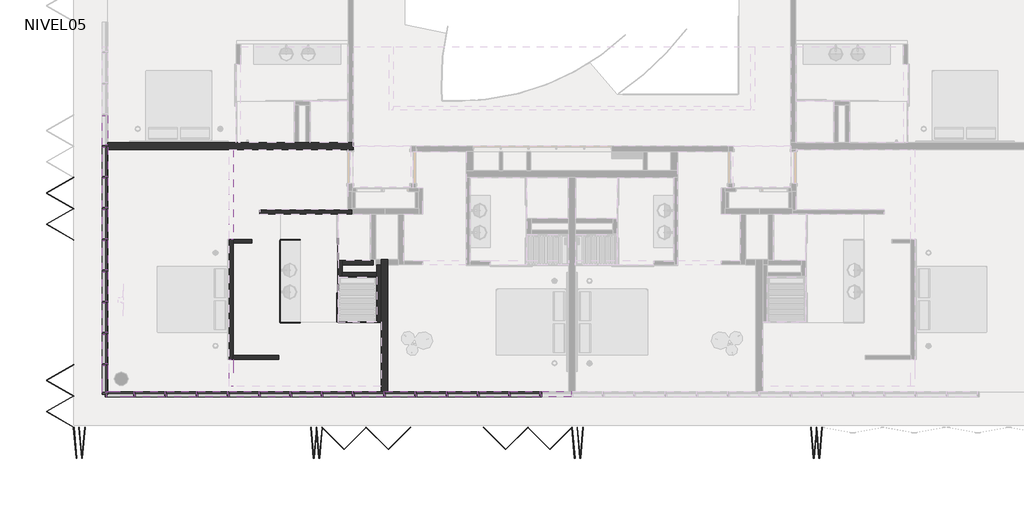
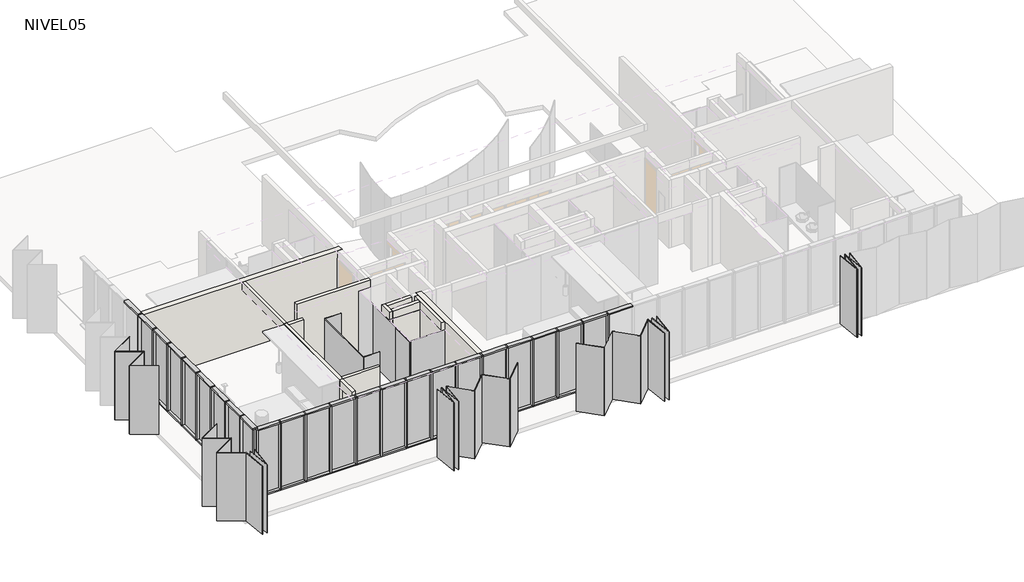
# One storey, part 1 of 8: 70 members, 32 plates, 15 walls.
"""IFC4 building model written with IfcOpenShell, lengths in millimetres."""

from ifc_helpers import new_model, si_unit, frame, origin, place, context, project, spatial, polyline, outline, extrude, faceted_brep, transform, mapped, element, save
from components import rectangular_mullion_50_x_150mm_324a6438, rectangular_mullion_50_x_150mm_d09437e2, rectangular_mullion_50_x_150mm_5dc04e1f, rectangular_mullion_50_x_150mm_33c2bde1, rectangular_mullion_50_x_150mm_da4cfd0d, folding_hd_folding_hd_45_d1567fec, folding_hd_folding_hd_60_f14e086e, folding_hd_folding_hd_85_4018a160, folding_hd_folding_hd_85_a0ccf00b, panel_corredera_cr_panel_corredera_0e7ff004, system_panel_cr_shower_eca2249b, system_panel_cr_shower_cd40b9b4, system_panel_cr_shower_8ff19449, system_panel_cr_shower_4114597a, system_panel_cr_shower_91ed7f58, system_panel_glazed_8b1c2311, system_panel_glazed_b40d16d2, system_panel_glazed_24c908d7, system_panel_glazed_6ccc6dc1

model = new_model("IFC4")

# Units and contexts
model_context = context("Model", 3, world=origin())
ifc_project = project(units=[si_unit("LENGTHUNIT", "METRE", prefix="MILLI")], contexts=[model_context])

# Site, building, storey
site = spatial("IfcSite", under=ifc_project)
building = spatial("IfcBuilding", under=site)
storey = spatial("IfcBuildingStorey", under=building, Name="NIVEL05", Elevation=10660.0)

# Members
placement = place(None, origin())
rectangular_mullion_50_x_150mm_shape = rectangular_mullion_50_x_150mm_324a6438(model_context)
element("IfcMember", 1, ObjectType="Rectangular Mullion : 50 x 150mm", at=placement, inside=storey, context=model_context, shape_type="MappedRepresentation", body=[
    mapped(rectangular_mullion_50_x_150mm_shape, transform((-20633.5934748, -241.0860763, 13210.0), x_axis=(0.0, 0.0, 1.0), y_axis=(-1.0, 0.0, 0.0), z_axis=(0.0, -1.0, 0.0))),
])
element("IfcMember", 2, ObjectType="Rectangular Mullion : 50 x 150mm", at=placement, inside=storey, context=model_context, shape_type="MappedRepresentation", body=[
    mapped(rectangular_mullion_50_x_150mm_shape, transform((-20633.5934748, -1141.0860763, 13210.0), x_axis=(0.0, 0.0, 1.0), y_axis=(-1.0, 0.0, 0.0), z_axis=(0.0, -1.0, 0.0))),
])
element("IfcMember", 3, ObjectType="Rectangular Mullion : 50 x 150mm", at=placement, inside=storey, context=model_context, shape_type="MappedRepresentation", body=[
    mapped(rectangular_mullion_50_x_150mm_shape, transform((-20633.5934748, -2041.0860763, 13210.0), x_axis=(0.0, 0.0, 1.0), y_axis=(-1.0, 0.0, 0.0), z_axis=(0.0, -1.0, 0.0))),
])
element("IfcMember", 4, ObjectType="Rectangular Mullion : 50 x 150mm", at=placement, inside=storey, context=model_context, shape_type="MappedRepresentation", body=[
    mapped(rectangular_mullion_50_x_150mm_shape, transform((-20633.5934748, -2941.0860763, 13210.0), x_axis=(0.0, 0.0, 1.0), y_axis=(-1.0, 0.0, 0.0), z_axis=(0.0, -1.0, 0.0))),
])
element("IfcMember", 5, ObjectType="Rectangular Mullion : 50 x 150mm", at=placement, inside=storey, context=model_context, shape_type="MappedRepresentation", body=[
    mapped(rectangular_mullion_50_x_150mm_shape, transform((-20633.5934748, -3841.0860763, 13210.0), x_axis=(0.0, 0.0, 1.0), y_axis=(-1.0, 0.0, 0.0), z_axis=(0.0, -1.0, 0.0))),
])
element("IfcMember", 6, ObjectType="Rectangular Mullion : 50 x 150mm", at=placement, inside=storey, context=model_context, shape_type="MappedRepresentation", body=[
    mapped(rectangular_mullion_50_x_150mm_shape, transform((-20633.5934748, -4741.0860763, 13210.0), x_axis=(0.0, 0.0, 1.0), y_axis=(-1.0, 0.0, 0.0), z_axis=(0.0, -1.0, 0.0))),
])
element("IfcMember", 7, ObjectType="Rectangular Mullion : 50 x 150mm", at=placement, inside=storey, context=model_context, shape_type="MappedRepresentation", body=[
    mapped(rectangular_mullion_50_x_150mm_shape, transform((-20633.5934748, -5641.0860763, 13210.0), x_axis=(0.0, 0.0, 1.0), y_axis=(-1.0, 0.0, 0.0), z_axis=(0.0, -1.0, 0.0))),
])
element("IfcMember", 8, ObjectType="Rectangular Mullion : 50 x 150mm", at=placement, inside=storey, context=model_context, shape_type="MappedRepresentation", body=[
    mapped(rectangular_mullion_50_x_150mm_shape, transform((-20633.5934748, -6541.0860763, 13210.0), x_axis=(0.0, 0.0, 1.0), y_axis=(-1.0, 0.0, 0.0), z_axis=(0.0, -1.0, 0.0))),
])
element("IfcMember", 9, ObjectType="Rectangular Mullion : 50 x 150mm", at=placement, inside=storey, context=model_context, shape_type="MappedRepresentation", body=[
    mapped(rectangular_mullion_50_x_150mm_shape, transform((-20633.5934748, -291.0860763, 10640.0), x_axis=(0.0, 0.0, -1.0), y_axis=(-1.0, 0.0, 0.0), z_axis=(0.0, 1.0, 0.0))),
])
element("IfcMember", 10, ObjectType="Rectangular Mullion : 50 x 150mm", at=placement, inside=storey, context=model_context, shape_type="MappedRepresentation", body=[
    mapped(rectangular_mullion_50_x_150mm_shape, transform((-20633.5934748, -1191.0860763, 10640.0), x_axis=(0.0, 0.0, -1.0), y_axis=(-1.0, 0.0, 0.0), z_axis=(0.0, 1.0, 0.0))),
])
element("IfcMember", 11, ObjectType="Rectangular Mullion : 50 x 150mm", at=placement, inside=storey, context=model_context, shape_type="MappedRepresentation", body=[
    mapped(rectangular_mullion_50_x_150mm_shape, transform((-20633.5934748, -2091.0860763, 10640.0), x_axis=(0.0, 0.0, -1.0), y_axis=(-1.0, 0.0, 0.0), z_axis=(0.0, 1.0, 0.0))),
])
element("IfcMember", 12, ObjectType="Rectangular Mullion : 50 x 150mm", at=placement, inside=storey, context=model_context, shape_type="MappedRepresentation", body=[
    mapped(rectangular_mullion_50_x_150mm_shape, transform((-20633.5934748, -2991.0860763, 10640.0), x_axis=(0.0, 0.0, -1.0), y_axis=(-1.0, 0.0, 0.0), z_axis=(0.0, 1.0, 0.0))),
])
element("IfcMember", 13, ObjectType="Rectangular Mullion : 50 x 150mm", at=placement, inside=storey, context=model_context, shape_type="MappedRepresentation", body=[
    mapped(rectangular_mullion_50_x_150mm_shape, transform((-20633.5934748, -3891.0860763, 10640.0), x_axis=(0.0, 0.0, -1.0), y_axis=(-1.0, 0.0, 0.0), z_axis=(0.0, 1.0, 0.0))),
])
element("IfcMember", 14, ObjectType="Rectangular Mullion : 50 x 150mm", at=placement, inside=storey, context=model_context, shape_type="MappedRepresentation", body=[
    mapped(rectangular_mullion_50_x_150mm_shape, transform((-20633.5934748, -4791.0860763, 10640.0), x_axis=(0.0, 0.0, -1.0), y_axis=(-1.0, 0.0, 0.0), z_axis=(0.0, 1.0, 0.0))),
])
element("IfcMember", 15, ObjectType="Rectangular Mullion : 50 x 150mm", at=placement, inside=storey, context=model_context, shape_type="MappedRepresentation", body=[
    mapped(rectangular_mullion_50_x_150mm_shape, transform((-20633.5934748, -5691.0860763, 10640.0), x_axis=(0.0, 0.0, -1.0), y_axis=(-1.0, 0.0, 0.0), z_axis=(0.0, 1.0, 0.0))),
])
element("IfcMember", 16, ObjectType="Rectangular Mullion : 50 x 150mm", at=placement, inside=storey, context=model_context, shape_type="MappedRepresentation", body=[
    mapped(rectangular_mullion_50_x_150mm_shape, transform((-8058.5934748, -7416.0860759, 13210.0), x_axis=(0.0, 0.0, 1.0), y_axis=(0.0, 1.0, 0.0), z_axis=(-1.0, 0.0, 0.0))),
])
element("IfcMember", 17, ObjectType="Rectangular Mullion : 50 x 150mm", at=placement, inside=storey, context=model_context, shape_type="MappedRepresentation", body=[
    mapped(rectangular_mullion_50_x_150mm_shape, transform((-8958.5934748, -7416.0860759, 13210.0), x_axis=(0.0, 0.0, 1.0), y_axis=(0.0, 1.0, 0.0), z_axis=(-1.0, 0.0, 0.0))),
])
element("IfcMember", 18, ObjectType="Rectangular Mullion : 50 x 150mm", at=placement, inside=storey, context=model_context, shape_type="MappedRepresentation", body=[
    mapped(rectangular_mullion_50_x_150mm_shape, transform((-9858.5934748, -7416.0860759, 13210.0), x_axis=(0.0, 0.0, 1.0), y_axis=(0.0, 1.0, 0.0), z_axis=(-1.0, 0.0, 0.0))),
])
element("IfcMember", 19, ObjectType="Rectangular Mullion : 50 x 150mm", at=placement, inside=storey, context=model_context, shape_type="MappedRepresentation", body=[
    mapped(rectangular_mullion_50_x_150mm_shape, transform((-10758.5934748, -7416.0860759, 13210.0), x_axis=(0.0, 0.0, 1.0), y_axis=(0.0, 1.0, 0.0), z_axis=(-1.0, 0.0, 0.0))),
])
element("IfcMember", 20, ObjectType="Rectangular Mullion : 50 x 150mm", at=placement, inside=storey, context=model_context, shape_type="MappedRepresentation", body=[
    mapped(rectangular_mullion_50_x_150mm_shape, transform((-11658.5934748, -7416.0860759, 13210.0), x_axis=(0.0, 0.0, 1.0), y_axis=(0.0, 1.0, 0.0), z_axis=(-1.0, 0.0, 0.0))),
])
element("IfcMember", 21, ObjectType="Rectangular Mullion : 50 x 150mm", at=placement, inside=storey, context=model_context, shape_type="MappedRepresentation", body=[
    mapped(rectangular_mullion_50_x_150mm_shape, transform((-12558.5934748, -7416.0860759, 13210.0), x_axis=(0.0, 0.0, 1.0), y_axis=(0.0, 1.0, 0.0), z_axis=(-1.0, 0.0, 0.0))),
])
element("IfcMember", 22, ObjectType="Rectangular Mullion : 50 x 150mm", at=placement, inside=storey, context=model_context, shape_type="MappedRepresentation", body=[
    mapped(rectangular_mullion_50_x_150mm_shape, transform((-13458.5934748, -7416.0860759, 13210.0), x_axis=(0.0, 0.0, 1.0), y_axis=(0.0, 1.0, 0.0), z_axis=(-1.0, 0.0, 0.0))),
])
element("IfcMember", 23, ObjectType="Rectangular Mullion : 50 x 150mm", at=placement, inside=storey, context=model_context, shape_type="MappedRepresentation", body=[
    mapped(rectangular_mullion_50_x_150mm_shape, transform((-14358.5934748, -7416.0860759, 13210.0), x_axis=(0.0, 0.0, 1.0), y_axis=(0.0, 1.0, 0.0), z_axis=(-1.0, 0.0, 0.0))),
])
element("IfcMember", 24, ObjectType="Rectangular Mullion : 50 x 150mm", at=placement, inside=storey, context=model_context, shape_type="MappedRepresentation", body=[
    mapped(rectangular_mullion_50_x_150mm_shape, transform((-15258.5934748, -7416.0860759, 13210.0), x_axis=(0.0, 0.0, 1.0), y_axis=(0.0, 1.0, 0.0), z_axis=(-1.0, 0.0, 0.0))),
])
element("IfcMember", 25, ObjectType="Rectangular Mullion : 50 x 150mm", at=placement, inside=storey, context=model_context, shape_type="MappedRepresentation", body=[
    mapped(rectangular_mullion_50_x_150mm_shape, transform((-16158.5934748, -7416.0860759, 13210.0), x_axis=(0.0, 0.0, 1.0), y_axis=(0.0, 1.0, 0.0), z_axis=(-1.0, 0.0, 0.0))),
])
element("IfcMember", 26, ObjectType="Rectangular Mullion : 50 x 150mm", at=placement, inside=storey, context=model_context, shape_type="MappedRepresentation", body=[
    mapped(rectangular_mullion_50_x_150mm_shape, transform((-17058.5934748, -7416.0860759, 13210.0), x_axis=(0.0, 0.0, 1.0), y_axis=(0.0, 1.0, 0.0), z_axis=(-1.0, 0.0, 0.0))),
])
element("IfcMember", 27, ObjectType="Rectangular Mullion : 50 x 150mm", at=placement, inside=storey, context=model_context, shape_type="MappedRepresentation", body=[
    mapped(rectangular_mullion_50_x_150mm_shape, transform((-17958.5934748, -7416.0860759, 13210.0), x_axis=(0.0, 0.0, 1.0), y_axis=(0.0, 1.0, 0.0), z_axis=(-1.0, 0.0, 0.0))),
])
element("IfcMember", 28, ObjectType="Rectangular Mullion : 50 x 150mm", at=placement, inside=storey, context=model_context, shape_type="MappedRepresentation", body=[
    mapped(rectangular_mullion_50_x_150mm_shape, transform((-18858.5934748, -7416.0860759, 13210.0), x_axis=(0.0, 0.0, 1.0), y_axis=(0.0, 1.0, 0.0), z_axis=(-1.0, 0.0, 0.0))),
])
element("IfcMember", 29, ObjectType="Rectangular Mullion : 50 x 150mm", at=placement, inside=storey, context=model_context, shape_type="MappedRepresentation", body=[
    mapped(rectangular_mullion_50_x_150mm_shape, transform((-19758.5934748, -7416.0860759, 13210.0), x_axis=(0.0, 0.0, 1.0), y_axis=(0.0, 1.0, 0.0), z_axis=(-1.0, 0.0, 0.0))),
])
element("IfcMember", 30, ObjectType="Rectangular Mullion : 50 x 150mm", at=placement, inside=storey, context=model_context, shape_type="MappedRepresentation", body=[
    mapped(rectangular_mullion_50_x_150mm_shape, transform((-8108.5934748, -7416.0860759, 10640.0), x_axis=(0.0, 0.0, -1.0), y_axis=(0.0, 1.0, 0.0), z_axis=(1.0, 0.0, 0.0))),
])
element("IfcMember", 31, ObjectType="Rectangular Mullion : 50 x 150mm", at=placement, inside=storey, context=model_context, shape_type="MappedRepresentation", body=[
    mapped(rectangular_mullion_50_x_150mm_shape, transform((-9008.5934748, -7416.0860759, 10640.0), x_axis=(0.0, 0.0, -1.0), y_axis=(0.0, 1.0, 0.0), z_axis=(1.0, 0.0, 0.0))),
])
element("IfcMember", 32, ObjectType="Rectangular Mullion : 50 x 150mm", at=placement, inside=storey, context=model_context, shape_type="MappedRepresentation", body=[
    mapped(rectangular_mullion_50_x_150mm_shape, transform((-9908.5934748, -7416.0860759, 10640.0), x_axis=(0.0, 0.0, -1.0), y_axis=(0.0, 1.0, 0.0), z_axis=(1.0, 0.0, 0.0))),
])
element("IfcMember", 33, ObjectType="Rectangular Mullion : 50 x 150mm", at=placement, inside=storey, context=model_context, shape_type="MappedRepresentation", body=[
    mapped(rectangular_mullion_50_x_150mm_shape, transform((-10808.5934748, -7416.0860759, 10640.0), x_axis=(0.0, 0.0, -1.0), y_axis=(0.0, 1.0, 0.0), z_axis=(1.0, 0.0, 0.0))),
])
element("IfcMember", 34, ObjectType="Rectangular Mullion : 50 x 150mm", at=placement, inside=storey, context=model_context, shape_type="MappedRepresentation", body=[
    mapped(rectangular_mullion_50_x_150mm_shape, transform((-11708.5934748, -7416.0860759, 10640.0), x_axis=(0.0, 0.0, -1.0), y_axis=(0.0, 1.0, 0.0), z_axis=(1.0, 0.0, 0.0))),
])
element("IfcMember", 35, ObjectType="Rectangular Mullion : 50 x 150mm", at=placement, inside=storey, context=model_context, shape_type="MappedRepresentation", body=[
    mapped(rectangular_mullion_50_x_150mm_shape, transform((-12608.5934748, -7416.0860759, 10640.0), x_axis=(0.0, 0.0, -1.0), y_axis=(0.0, 1.0, 0.0), z_axis=(1.0, 0.0, 0.0))),
])
element("IfcMember", 36, ObjectType="Rectangular Mullion : 50 x 150mm", at=placement, inside=storey, context=model_context, shape_type="MappedRepresentation", body=[
    mapped(rectangular_mullion_50_x_150mm_shape, transform((-13508.5934748, -7416.0860759, 10640.0), x_axis=(0.0, 0.0, -1.0), y_axis=(0.0, 1.0, 0.0), z_axis=(1.0, 0.0, 0.0))),
])
element("IfcMember", 37, ObjectType="Rectangular Mullion : 50 x 150mm", at=placement, inside=storey, context=model_context, shape_type="MappedRepresentation", body=[
    mapped(rectangular_mullion_50_x_150mm_shape, transform((-14408.5934748, -7416.0860759, 10640.0), x_axis=(0.0, 0.0, -1.0), y_axis=(0.0, 1.0, 0.0), z_axis=(1.0, 0.0, 0.0))),
])
element("IfcMember", 38, ObjectType="Rectangular Mullion : 50 x 150mm", at=placement, inside=storey, context=model_context, shape_type="MappedRepresentation", body=[
    mapped(rectangular_mullion_50_x_150mm_shape, transform((-15308.5934748, -7416.0860759, 10640.0), x_axis=(0.0, 0.0, -1.0), y_axis=(0.0, 1.0, 0.0), z_axis=(1.0, 0.0, 0.0))),
])
element("IfcMember", 39, ObjectType="Rectangular Mullion : 50 x 150mm", at=placement, inside=storey, context=model_context, shape_type="MappedRepresentation", body=[
    mapped(rectangular_mullion_50_x_150mm_shape, transform((-16208.5934748, -7416.0860759, 10640.0), x_axis=(0.0, 0.0, -1.0), y_axis=(0.0, 1.0, 0.0), z_axis=(1.0, 0.0, 0.0))),
])
element("IfcMember", 40, ObjectType="Rectangular Mullion : 50 x 150mm", at=placement, inside=storey, context=model_context, shape_type="MappedRepresentation", body=[
    mapped(rectangular_mullion_50_x_150mm_shape, transform((-17108.5934748, -7416.0860759, 10640.0), x_axis=(0.0, 0.0, -1.0), y_axis=(0.0, 1.0, 0.0), z_axis=(1.0, 0.0, 0.0))),
])
element("IfcMember", 41, ObjectType="Rectangular Mullion : 50 x 150mm", at=placement, inside=storey, context=model_context, shape_type="MappedRepresentation", body=[
    mapped(rectangular_mullion_50_x_150mm_shape, transform((-18008.5934748, -7416.0860759, 10640.0), x_axis=(0.0, 0.0, -1.0), y_axis=(0.0, 1.0, 0.0), z_axis=(1.0, 0.0, 0.0))),
])
element("IfcMember", 42, ObjectType="Rectangular Mullion : 50 x 150mm", at=placement, inside=storey, context=model_context, shape_type="MappedRepresentation", body=[
    mapped(rectangular_mullion_50_x_150mm_shape, transform((-18908.5934748, -7416.0860759, 10640.0), x_axis=(0.0, 0.0, -1.0), y_axis=(0.0, 1.0, 0.0), z_axis=(1.0, 0.0, 0.0))),
])
rectangular_mullion_50_x_150mm_2_shape = rectangular_mullion_50_x_150mm_d09437e2(model_context)
element("IfcMember", 43, ObjectType="Rectangular Mullion : 50 x 150mm", at=placement, inside=storey, context=model_context, shape_type="MappedRepresentation", body=[
    mapped(rectangular_mullion_50_x_150mm_2_shape, transform((-20633.5934748, -7366.0860759, 13210.0), x_axis=(0.0, 0.0, 1.0), y_axis=(-1.0, 0.0, 0.0), z_axis=(0.0, -1.0, 0.0))),
])
element("IfcMember", 44, ObjectType="Rectangular Mullion : 50 x 150mm", at=placement, inside=storey, context=model_context, shape_type="MappedRepresentation", body=[
    mapped(rectangular_mullion_50_x_150mm_2_shape, transform((-20633.5934748, -6591.0860763, 10640.0), x_axis=(0.0, 0.0, -1.0), y_axis=(-1.0, 0.0, 0.0), z_axis=(0.0, 1.0, 0.0))),
])
rectangular_mullion_50_x_150mm_3_shape = rectangular_mullion_50_x_150mm_5dc04e1f(model_context)
element("IfcMember", 45, ObjectType="Rectangular Mullion : 50 x 150mm", at=placement, inside=storey, context=model_context, shape_type="MappedRepresentation", body=[
    mapped(rectangular_mullion_50_x_150mm_3_shape, transform((-20583.5934748, -7416.0860759, 13210.0), x_axis=(0.0, 0.0, 1.0), y_axis=(0.0, 1.0, 0.0), z_axis=(-1.0, 0.0, 0.0))),
])
element("IfcMember", 46, ObjectType="Rectangular Mullion : 50 x 150mm", at=placement, inside=storey, context=model_context, shape_type="MappedRepresentation", body=[
    mapped(rectangular_mullion_50_x_150mm_3_shape, transform((-19808.5934748, -7416.0860759, 10640.0), x_axis=(0.0, 0.0, -1.0), y_axis=(0.0, 1.0, 0.0), z_axis=(1.0, 0.0, 0.0))),
])
rectangular_mullion_50_x_150mm_4_shape = rectangular_mullion_50_x_150mm_33c2bde1(model_context)
element("IfcMember", 47, ObjectType="Rectangular Mullion : 50 x 150mm", at=placement, inside=storey, context=model_context, shape_type="MappedRepresentation", body=[
    mapped(rectangular_mullion_50_x_150mm_4_shape, transform((-20633.5934748, -266.0860763, 10640.0), x_axis=(0.0, -1.0, 0.0), y_axis=(-1.0, 0.0, 0.0), z_axis=(0.0, 0.0, -1.0))),
])
element("IfcMember", 48, ObjectType="Rectangular Mullion : 50 x 150mm", at=placement, inside=storey, context=model_context, shape_type="MappedRepresentation", body=[
    mapped(rectangular_mullion_50_x_150mm_4_shape, transform((-20633.5934748, -1166.0860763, 10640.0), x_axis=(0.0, -1.0, 0.0), y_axis=(-1.0, 0.0, 0.0), z_axis=(0.0, 0.0, -1.0))),
])
element("IfcMember", 49, ObjectType="Rectangular Mullion : 50 x 150mm", at=placement, inside=storey, context=model_context, shape_type="MappedRepresentation", body=[
    mapped(rectangular_mullion_50_x_150mm_4_shape, transform((-20633.5934748, -2066.0860763, 10640.0), x_axis=(0.0, -1.0, 0.0), y_axis=(-1.0, 0.0, 0.0), z_axis=(0.0, 0.0, -1.0))),
])
element("IfcMember", 50, ObjectType="Rectangular Mullion : 50 x 150mm", at=placement, inside=storey, context=model_context, shape_type="MappedRepresentation", body=[
    mapped(rectangular_mullion_50_x_150mm_4_shape, transform((-20633.5934748, -2966.0860763, 10640.0), x_axis=(0.0, -1.0, 0.0), y_axis=(-1.0, 0.0, 0.0), z_axis=(0.0, 0.0, -1.0))),
])
element("IfcMember", 51, ObjectType="Rectangular Mullion : 50 x 150mm", at=placement, inside=storey, context=model_context, shape_type="MappedRepresentation", body=[
    mapped(rectangular_mullion_50_x_150mm_4_shape, transform((-20633.5934748, -3866.0860763, 10640.0), x_axis=(0.0, -1.0, 0.0), y_axis=(-1.0, 0.0, 0.0), z_axis=(0.0, 0.0, -1.0))),
])
element("IfcMember", 52, ObjectType="Rectangular Mullion : 50 x 150mm", at=placement, inside=storey, context=model_context, shape_type="MappedRepresentation", body=[
    mapped(rectangular_mullion_50_x_150mm_4_shape, transform((-20633.5934748, -4766.0860763, 10640.0), x_axis=(0.0, -1.0, 0.0), y_axis=(-1.0, 0.0, 0.0), z_axis=(0.0, 0.0, -1.0))),
])
element("IfcMember", 53, ObjectType="Rectangular Mullion : 50 x 150mm", at=placement, inside=storey, context=model_context, shape_type="MappedRepresentation", body=[
    mapped(rectangular_mullion_50_x_150mm_4_shape, transform((-20633.5934748, -5666.0860763, 10640.0), x_axis=(0.0, -1.0, 0.0), y_axis=(-1.0, 0.0, 0.0), z_axis=(0.0, 0.0, -1.0))),
])
element("IfcMember", 54, ObjectType="Rectangular Mullion : 50 x 150mm", at=placement, inside=storey, context=model_context, shape_type="MappedRepresentation", body=[
    mapped(rectangular_mullion_50_x_150mm_4_shape, transform((-20633.5934748, -6566.0860763, 10640.0), x_axis=(0.0, -1.0, 0.0), y_axis=(-1.0, 0.0, 0.0), z_axis=(0.0, 0.0, -1.0))),
])
rectangular_mullion_50_x_150mm_5_shape = rectangular_mullion_50_x_150mm_da4cfd0d(model_context)
element("IfcMember", 55, ObjectType="Rectangular Mullion : 50 x 150mm", at=placement, inside=storey, context=model_context, shape_type="MappedRepresentation", body=[
    mapped(rectangular_mullion_50_x_150mm_5_shape, transform((-20633.5934748, -7416.0860759, 10640.0), x_axis=(0.0, -1.0, 0.0), y_axis=(-1.0, 0.0, 0.0), z_axis=(0.0, 0.0, -1.0))),
])
element("IfcMember", 56, ObjectType="Rectangular Mullion : 50 x 150mm", at=placement, inside=storey, context=model_context, shape_type="MappedRepresentation", body=[
    mapped(rectangular_mullion_50_x_150mm_4_shape, transform((-8083.5934748, -7416.0860759, 10640.0), x_axis=(-1.0, 0.0, 0.0), y_axis=(0.0, 1.0, 0.0), z_axis=(0.0, 0.0, -1.0))),
])
element("IfcMember", 57, ObjectType="Rectangular Mullion : 50 x 150mm", at=placement, inside=storey, context=model_context, shape_type="MappedRepresentation", body=[
    mapped(rectangular_mullion_50_x_150mm_4_shape, transform((-8983.5934748, -7416.0860759, 10640.0), x_axis=(-1.0, 0.0, 0.0), y_axis=(0.0, 1.0, 0.0), z_axis=(0.0, 0.0, -1.0))),
])
element("IfcMember", 58, ObjectType="Rectangular Mullion : 50 x 150mm", at=placement, inside=storey, context=model_context, shape_type="MappedRepresentation", body=[
    mapped(rectangular_mullion_50_x_150mm_4_shape, transform((-9883.5934748, -7416.0860759, 10640.0), x_axis=(-1.0, 0.0, 0.0), y_axis=(0.0, 1.0, 0.0), z_axis=(0.0, 0.0, -1.0))),
])
element("IfcMember", 59, ObjectType="Rectangular Mullion : 50 x 150mm", at=placement, inside=storey, context=model_context, shape_type="MappedRepresentation", body=[
    mapped(rectangular_mullion_50_x_150mm_4_shape, transform((-10783.5934748, -7416.0860759, 10640.0), x_axis=(-1.0, 0.0, 0.0), y_axis=(0.0, 1.0, 0.0), z_axis=(0.0, 0.0, -1.0))),
])
element("IfcMember", 60, ObjectType="Rectangular Mullion : 50 x 150mm", at=placement, inside=storey, context=model_context, shape_type="MappedRepresentation", body=[
    mapped(rectangular_mullion_50_x_150mm_4_shape, transform((-11683.5934748, -7416.0860759, 10640.0), x_axis=(-1.0, 0.0, 0.0), y_axis=(0.0, 1.0, 0.0), z_axis=(0.0, 0.0, -1.0))),
])
element("IfcMember", 61, ObjectType="Rectangular Mullion : 50 x 150mm", at=placement, inside=storey, context=model_context, shape_type="MappedRepresentation", body=[
    mapped(rectangular_mullion_50_x_150mm_4_shape, transform((-12583.5934748, -7416.0860759, 10640.0), x_axis=(-1.0, 0.0, 0.0), y_axis=(0.0, 1.0, 0.0), z_axis=(0.0, 0.0, -1.0))),
])
element("IfcMember", 62, ObjectType="Rectangular Mullion : 50 x 150mm", at=placement, inside=storey, context=model_context, shape_type="MappedRepresentation", body=[
    mapped(rectangular_mullion_50_x_150mm_4_shape, transform((-13483.5934748, -7416.0860759, 10640.0), x_axis=(-1.0, 0.0, 0.0), y_axis=(0.0, 1.0, 0.0), z_axis=(0.0, 0.0, -1.0))),
])
element("IfcMember", 63, ObjectType="Rectangular Mullion : 50 x 150mm", at=placement, inside=storey, context=model_context, shape_type="MappedRepresentation", body=[
    mapped(rectangular_mullion_50_x_150mm_4_shape, transform((-14383.5934748, -7416.0860759, 10640.0), x_axis=(-1.0, 0.0, 0.0), y_axis=(0.0, 1.0, 0.0), z_axis=(0.0, 0.0, -1.0))),
])
element("IfcMember", 64, ObjectType="Rectangular Mullion : 50 x 150mm", at=placement, inside=storey, context=model_context, shape_type="MappedRepresentation", body=[
    mapped(rectangular_mullion_50_x_150mm_4_shape, transform((-15283.5934748, -7416.0860759, 10640.0), x_axis=(-1.0, 0.0, 0.0), y_axis=(0.0, 1.0, 0.0), z_axis=(0.0, 0.0, -1.0))),
])
element("IfcMember", 65, ObjectType="Rectangular Mullion : 50 x 150mm", at=placement, inside=storey, context=model_context, shape_type="MappedRepresentation", body=[
    mapped(rectangular_mullion_50_x_150mm_4_shape, transform((-16183.5934748, -7416.0860759, 10640.0), x_axis=(-1.0, 0.0, 0.0), y_axis=(0.0, 1.0, 0.0), z_axis=(0.0, 0.0, -1.0))),
])
element("IfcMember", 66, ObjectType="Rectangular Mullion : 50 x 150mm", at=placement, inside=storey, context=model_context, shape_type="MappedRepresentation", body=[
    mapped(rectangular_mullion_50_x_150mm_4_shape, transform((-17083.5934748, -7416.0860759, 10640.0), x_axis=(-1.0, 0.0, 0.0), y_axis=(0.0, 1.0, 0.0), z_axis=(0.0, 0.0, -1.0))),
])
element("IfcMember", 67, ObjectType="Rectangular Mullion : 50 x 150mm", at=placement, inside=storey, context=model_context, shape_type="MappedRepresentation", body=[
    mapped(rectangular_mullion_50_x_150mm_4_shape, transform((-17983.5934748, -7416.0860759, 10640.0), x_axis=(-1.0, 0.0, 0.0), y_axis=(0.0, 1.0, 0.0), z_axis=(0.0, 0.0, -1.0))),
])
element("IfcMember", 68, ObjectType="Rectangular Mullion : 50 x 150mm", at=placement, inside=storey, context=model_context, shape_type="MappedRepresentation", body=[
    mapped(rectangular_mullion_50_x_150mm_4_shape, transform((-18883.5934748, -7416.0860759, 10640.0), x_axis=(-1.0, 0.0, 0.0), y_axis=(0.0, 1.0, 0.0), z_axis=(0.0, 0.0, -1.0))),
])
element("IfcMember", 69, ObjectType="Rectangular Mullion : 50 x 150mm", at=placement, inside=storey, context=model_context, shape_type="MappedRepresentation", body=[
    mapped(rectangular_mullion_50_x_150mm_4_shape, transform((-19783.5934748, -7416.0860759, 10640.0), x_axis=(-1.0, 0.0, 0.0), y_axis=(0.0, 1.0, 0.0), z_axis=(0.0, 0.0, -1.0))),
])
element("IfcMember", 70, ObjectType="Rectangular Mullion : 50 x 150mm", at=placement, inside=storey, context=model_context, shape_type="MappedRepresentation", body=[
    mapped(rectangular_mullion_50_x_150mm_5_shape, transform((-20633.5934748, -7416.0860759, 10640.0), x_axis=(-1.0, 0.0, 0.0), y_axis=(0.0, 1.0, 0.0), z_axis=(0.0, 0.0, -1.0))),
])

# Plates
folding_hd_folding_hd_45_shape = folding_hd_folding_hd_45_d1567fec(model_context)
element("IfcPlate", 71, ObjectType="FOLDING HD : FOLDING HD 45", at=placement, inside=storey, context=model_context, shape_type="MappedRepresentation", body=[
    mapped(folding_hd_folding_hd_45_shape, transform((-10783.5934748, -8366.0860759, 10640.0), x_axis=(-1.0, 0.0, 0.0), y_axis=(0.0, -1.0, 0.0), z_axis=(0.0, 0.0, 1.0))),
])
folding_hd_folding_hd_60_shape = folding_hd_folding_hd_60_f14e086e(model_context)
element("IfcPlate", 72, ObjectType="FOLDING HD : FOLDING HD 60", at=placement, inside=storey, context=model_context, shape_type="MappedRepresentation", body=[
    mapped(folding_hd_folding_hd_60_shape, transform((-21533.5934748, -4766.0860759, 10640.0), x_axis=(0.0, -1.0, 0.0), y_axis=(1.0, 0.0, 0.0), z_axis=(0.0, 0.0, 1.0))),
])
folding_hd_folding_hd_85_shape = folding_hd_folding_hd_85_4018a160(model_context)
element("IfcPlate", 73, ObjectType="FOLDING HD : FOLDING HD 85", at=placement, inside=storey, context=model_context, shape_type="MappedRepresentation", body=[
    mapped(folding_hd_folding_hd_85_shape, transform((-17958.5934748, -8366.0860759, 10640.0), x_axis=(-1.0, 0.0, 0.0), y_axis=(0.0, -1.0, 0.0), z_axis=(0.0, 0.0, 1.0))),
])
folding_hd_folding_hd_85_2_shape = folding_hd_folding_hd_85_a0ccf00b(model_context)
element("IfcPlate", 74, ObjectType="FOLDING HD : FOLDING HD 85", at=placement, inside=storey, context=model_context, shape_type="MappedRepresentation", body=[
    mapped(folding_hd_folding_hd_85_2_shape, transform((-3583.5934748, -8366.0860759, 10640.0), x_axis=(-1.0, 0.0, 0.0), y_axis=(0.0, -1.0, 0.0), z_axis=(0.0, 0.0, 1.0))),
])
panel_corredera_cr_panel_corredera_shape = panel_corredera_cr_panel_corredera_0e7ff004(model_context)
element("IfcPlate", 75, ObjectType="PANEL CORREDERA : CR_PANEL CORREDERA", at=placement, inside=storey, context=model_context, shape_type="MappedRepresentation", body=[
    mapped(panel_corredera_cr_panel_corredera_shape, transform((-13913.6434748, -4991.5697221, 10660.0), x_axis=(0.0, 1.0, 0.0), y_axis=(-1.0, 0.0, 0.0), z_axis=(0.0, 0.0, 1.0))),
])
system_panel_cr_shower_shape = system_panel_cr_shower_eca2249b(model_context)
element("IfcPlate", 76, ObjectType="System Panel : CR-SHOWER", at=placement, inside=storey, context=model_context, shape_type="MappedRepresentation", body=[
    mapped(system_panel_cr_shower_shape, transform((-13298.6184748, -5336.1362189, 10660.0), x_axis=(-1.0, 0.0, 0.0), y_axis=(0.0, -1.0, 0.0), z_axis=(0.0, 0.0, 1.0))),
])
system_panel_cr_shower_2_shape = system_panel_cr_shower_cd40b9b4(model_context)
element("IfcPlate", 77, ObjectType="System Panel : CR-SHOWER", at=placement, inside=storey, context=model_context, shape_type="MappedRepresentation", body=[
    mapped(system_panel_cr_shower_2_shape, transform((-15593.5934748, -4164.8462541, 10660.0), x_axis=(0.0, 1.0, 0.0), y_axis=(-1.0, 0.0, 0.0), z_axis=(0.0, 0.0, 1.0))),
])
system_panel_cr_shower_3_shape = system_panel_cr_shower_8ff19449(model_context)
element("IfcPlate", 78, ObjectType="System Panel : CR-SHOWER", at=placement, inside=storey, context=model_context, shape_type="MappedRepresentation", body=[
    mapped(system_panel_cr_shower_3_shape, transform((-15303.5934748, -5348.5862189, 10660.0), x_axis=(-1.0, 0.0, 0.0), y_axis=(0.0, -1.0, 0.0), z_axis=(0.0, 0.0, 1.0))),
])
system_panel_cr_shower_4_shape = system_panel_cr_shower_4114597a(model_context)
element("IfcPlate", 79, ObjectType="System Panel : CR-SHOWER", at=placement, inside=storey, context=model_context, shape_type="MappedRepresentation", body=[
    mapped(system_panel_cr_shower_4_shape, transform((-15303.5934748, -2966.0860763, 10660.0), x_axis=(-1.0, 0.0, 0.0), y_axis=(0.0, -1.0, 0.0), z_axis=(0.0, 0.0, 1.0))),
])
system_panel_cr_shower_5_shape = system_panel_cr_shower_91ed7f58(model_context)
element("IfcPlate", 80, ObjectType="System Panel : CR-SHOWER", at=placement, inside=storey, context=model_context, shape_type="MappedRepresentation", body=[
    mapped(system_panel_cr_shower_5_shape, transform((-13913.6434748, -3776.2845441, 10660.0), x_axis=(0.0, 1.0, 0.0), y_axis=(-1.0, 0.0, 0.0), z_axis=(0.0, 0.0, 1.0))),
])
system_panel_glazed_shape = system_panel_glazed_8b1c2311(model_context)
element("IfcPlate", 81, ObjectType="System Panel : Glazed", at=placement, inside=storey, context=model_context, shape_type="MappedRepresentation", body=[
    mapped(system_panel_glazed_shape, transform((-20633.5934748, -716.0860763, 10690.0), x_axis=(0.0, -1.0, 0.0), y_axis=(1.0, 0.0, 0.0), z_axis=(0.0, 0.0, 1.0))),
])
element("IfcPlate", 82, ObjectType="System Panel : Glazed", at=placement, inside=storey, context=model_context, shape_type="MappedRepresentation", body=[
    mapped(system_panel_glazed_shape, transform((-20633.5934748, -1616.0860763, 10690.0), x_axis=(0.0, -1.0, 0.0), y_axis=(1.0, 0.0, 0.0), z_axis=(0.0, 0.0, 1.0))),
])
element("IfcPlate", 83, ObjectType="System Panel : Glazed", at=placement, inside=storey, context=model_context, shape_type="MappedRepresentation", body=[
    mapped(system_panel_glazed_shape, transform((-20633.5934748, -2516.0860763, 10690.0), x_axis=(0.0, -1.0, 0.0), y_axis=(1.0, 0.0, 0.0), z_axis=(0.0, 0.0, 1.0))),
])
element("IfcPlate", 84, ObjectType="System Panel : Glazed", at=placement, inside=storey, context=model_context, shape_type="MappedRepresentation", body=[
    mapped(system_panel_glazed_shape, transform((-20633.5934748, -3416.0860763, 10690.0), x_axis=(0.0, -1.0, 0.0), y_axis=(1.0, 0.0, 0.0), z_axis=(0.0, 0.0, 1.0))),
])
element("IfcPlate", 85, ObjectType="System Panel : Glazed", at=placement, inside=storey, context=model_context, shape_type="MappedRepresentation", body=[
    mapped(system_panel_glazed_shape, transform((-20633.5934748, -4316.0860763, 10690.0), x_axis=(0.0, -1.0, 0.0), y_axis=(1.0, 0.0, 0.0), z_axis=(0.0, 0.0, 1.0))),
])
element("IfcPlate", 86, ObjectType="System Panel : Glazed", at=placement, inside=storey, context=model_context, shape_type="MappedRepresentation", body=[
    mapped(system_panel_glazed_shape, transform((-20633.5934748, -5216.0860763, 10690.0), x_axis=(0.0, -1.0, 0.0), y_axis=(1.0, 0.0, 0.0), z_axis=(0.0, 0.0, 1.0))),
])
element("IfcPlate", 87, ObjectType="System Panel : Glazed", at=placement, inside=storey, context=model_context, shape_type="MappedRepresentation", body=[
    mapped(system_panel_glazed_shape, transform((-20633.5934748, -6116.0860763, 10690.0), x_axis=(0.0, -1.0, 0.0), y_axis=(1.0, 0.0, 0.0), z_axis=(0.0, 0.0, 1.0))),
])
system_panel_glazed_2_shape = system_panel_glazed_b40d16d2(model_context)
element("IfcPlate", 88, ObjectType="System Panel : Glazed", at=placement, inside=storey, context=model_context, shape_type="MappedRepresentation", body=[
    mapped(system_panel_glazed_2_shape, transform((-20633.5934748, -6978.5860761, 10690.0), x_axis=(0.0, -1.0, 0.0), y_axis=(1.0, 0.0, 0.0), z_axis=(0.0, 0.0, 1.0))),
])
system_panel_glazed_3_shape = system_panel_glazed_24c908d7(model_context)
element("IfcPlate", 89, ObjectType="System Panel : Glazed", at=placement, inside=storey, context=model_context, shape_type="MappedRepresentation", body=[
    mapped(system_panel_glazed_3_shape, transform((-20196.0934748, -7416.0860759, 10690.0), x_axis=(-1.0, 0.0, 0.0), y_axis=(0.0, -1.0, 0.0), z_axis=(0.0, 0.0, 1.0))),
])
system_panel_glazed_4_shape = system_panel_glazed_6ccc6dc1(model_context)
element("IfcPlate", 90, ObjectType="System Panel : Glazed", at=placement, inside=storey, context=model_context, shape_type="MappedRepresentation", body=[
    mapped(system_panel_glazed_4_shape, transform((-8533.5934748, -7416.0860759, 10690.0), x_axis=(-1.0, 0.0, 0.0), y_axis=(0.0, -1.0, 0.0), z_axis=(0.0, 0.0, 1.0))),
])
element("IfcPlate", 91, ObjectType="System Panel : Glazed", at=placement, inside=storey, context=model_context, shape_type="MappedRepresentation", body=[
    mapped(system_panel_glazed_4_shape, transform((-9433.5934748, -7416.0860759, 10690.0), x_axis=(-1.0, 0.0, 0.0), y_axis=(0.0, -1.0, 0.0), z_axis=(0.0, 0.0, 1.0))),
])
element("IfcPlate", 92, ObjectType="System Panel : Glazed", at=placement, inside=storey, context=model_context, shape_type="MappedRepresentation", body=[
    mapped(system_panel_glazed_4_shape, transform((-10333.5934748, -7416.0860759, 10690.0), x_axis=(-1.0, 0.0, 0.0), y_axis=(0.0, -1.0, 0.0), z_axis=(0.0, 0.0, 1.0))),
])
element("IfcPlate", 93, ObjectType="System Panel : Glazed", at=placement, inside=storey, context=model_context, shape_type="MappedRepresentation", body=[
    mapped(system_panel_glazed_4_shape, transform((-11233.5934748, -7416.0860759, 10690.0), x_axis=(-1.0, 0.0, 0.0), y_axis=(0.0, -1.0, 0.0), z_axis=(0.0, 0.0, 1.0))),
])
element("IfcPlate", 94, ObjectType="System Panel : Glazed", at=placement, inside=storey, context=model_context, shape_type="MappedRepresentation", body=[
    mapped(system_panel_glazed_4_shape, transform((-12133.5934748, -7416.0860759, 10690.0), x_axis=(-1.0, 0.0, 0.0), y_axis=(0.0, -1.0, 0.0), z_axis=(0.0, 0.0, 1.0))),
])
element("IfcPlate", 95, ObjectType="System Panel : Glazed", at=placement, inside=storey, context=model_context, shape_type="MappedRepresentation", body=[
    mapped(system_panel_glazed_4_shape, transform((-13033.5934748, -7416.0860759, 10690.0), x_axis=(-1.0, 0.0, 0.0), y_axis=(0.0, -1.0, 0.0), z_axis=(0.0, 0.0, 1.0))),
])
element("IfcPlate", 96, ObjectType="System Panel : Glazed", at=placement, inside=storey, context=model_context, shape_type="MappedRepresentation", body=[
    mapped(system_panel_glazed_4_shape, transform((-13933.5934748, -7416.0860759, 10690.0), x_axis=(-1.0, 0.0, 0.0), y_axis=(0.0, -1.0, 0.0), z_axis=(0.0, 0.0, 1.0))),
])
element("IfcPlate", 97, ObjectType="System Panel : Glazed", at=placement, inside=storey, context=model_context, shape_type="MappedRepresentation", body=[
    mapped(system_panel_glazed_4_shape, transform((-14833.5934748, -7416.0860759, 10690.0), x_axis=(-1.0, 0.0, 0.0), y_axis=(0.0, -1.0, 0.0), z_axis=(0.0, 0.0, 1.0))),
])
element("IfcPlate", 98, ObjectType="System Panel : Glazed", at=placement, inside=storey, context=model_context, shape_type="MappedRepresentation", body=[
    mapped(system_panel_glazed_4_shape, transform((-15733.5934748, -7416.0860759, 10690.0), x_axis=(-1.0, 0.0, 0.0), y_axis=(0.0, -1.0, 0.0), z_axis=(0.0, 0.0, 1.0))),
])
element("IfcPlate", 99, ObjectType="System Panel : Glazed", at=placement, inside=storey, context=model_context, shape_type="MappedRepresentation", body=[
    mapped(system_panel_glazed_4_shape, transform((-16633.5934748, -7416.0860759, 10690.0), x_axis=(-1.0, 0.0, 0.0), y_axis=(0.0, -1.0, 0.0), z_axis=(0.0, 0.0, 1.0))),
])
element("IfcPlate", 100, ObjectType="System Panel : Glazed", at=placement, inside=storey, context=model_context, shape_type="MappedRepresentation", body=[
    mapped(system_panel_glazed_4_shape, transform((-17533.5934748, -7416.0860759, 10690.0), x_axis=(-1.0, 0.0, 0.0), y_axis=(0.0, -1.0, 0.0), z_axis=(0.0, 0.0, 1.0))),
])
element("IfcPlate", 101, ObjectType="System Panel : Glazed", at=placement, inside=storey, context=model_context, shape_type="MappedRepresentation", body=[
    mapped(system_panel_glazed_4_shape, transform((-18433.5934748, -7416.0860759, 10690.0), x_axis=(-1.0, 0.0, 0.0), y_axis=(0.0, -1.0, 0.0), z_axis=(0.0, 0.0, 1.0))),
])
element("IfcPlate", 102, ObjectType="System Panel : Glazed", at=placement, inside=storey, context=model_context, shape_type="MappedRepresentation", body=[
    mapped(system_panel_glazed_4_shape, transform((-19333.5934748, -7416.0860759, 10690.0), x_axis=(-1.0, 0.0, 0.0), y_axis=(0.0, -1.0, 0.0), z_axis=(0.0, 0.0, 1.0))),
])

# Walls
element("IfcWall", 103, ObjectType="SCV.TI.A.110.090.143.47.1", at=placement, inside=storey, context=model_context, shape_type="Brep", body=[
    faceted_brep([(-13533.5934748, -2106.0860759, 10640.0), (-13643.5934748, -2106.0860759, 10640.0), (-16173.5934748, -2106.0860759, 10640.0), (-16173.5934748, -2106.0860759, 13210.0), (-13643.5934748, -2106.0860759, 13210.0), (-13533.5934748, -2106.0860759, 13210.0), (-13533.5934748, -2216.0860759, 10640.0), (-13533.5934748, -2216.0860759, 13210.0), (-16173.5934748, -2216.0860759, 13210.0), (-16173.5934748, -2216.0860759, 10640.0)], [[[0, 1, 2, 3, 4, 5]], [[6, 7, 8, 9]], [[2, 1, 0, 6, 9]], [[3, 2, 9, 8]], [[5, 4, 3, 8, 7]], [[0, 5, 7, 6]]]),
])
element("IfcWall", 104, ObjectType="SCV.TI.A.120.120.122.46.2", at=placement, inside=storey, context=model_context, shape_type="SweptSolid", body=[
    extrude(outline(polyline([(-13793.5934748, -3906.0862189), (-12803.5934748, -3906.0862189), (-12803.5934748, -4026.0862189), (-13793.5934748, -4026.0862189), (-13793.5934748, -3906.0862189)])), frame((0.0, 0.0, 10640.0), z_axis=(0.0, 0.0, 1.0), x_axis=(1.0, 0.0, 0.0)), (0.0, 0.0, 1.0), 2570.0),
])
element("IfcWall", 105, ObjectType="SCV.TI.A.120.120.122.46.2", at=placement, inside=storey, context=model_context, shape_type="Brep", body=[
    faceted_brep([(-13793.5934748, -4026.0862189, 10640.0), (-13793.5934748, -3906.0862189, 10640.0), (-13793.5934748, -3686.0862189, 10640.0), (-13793.5934748, -3566.0862189, 10640.0), (-13793.5934748, -3566.0862189, 13210.0), (-13793.5934748, -3686.0862189, 13210.0), (-13793.5934748, -3906.0862189, 13210.0), (-13793.5934748, -4026.0862189, 13210.0), (-13913.5934748, -4026.0862189, 10640.0), (-13913.5934748, -4026.0862189, 13210.0), (-13913.5934748, -3566.0862189, 13210.0), (-13913.5934748, -3566.0862189, 10640.0)], [[[0, 1, 2, 3, 4, 5, 6, 7]], [[8, 9, 10, 11]], [[3, 2, 1, 0, 8, 11]], [[7, 6, 5, 4, 10, 9]], [[4, 3, 11, 10]], [[0, 7, 9, 8]]]),
])
element("IfcWall", 106, ObjectType="SCV.TI.A.120.120.122.46.2", at=placement, inside=storey, context=model_context, shape_type="SweptSolid", body=[
    extrude(outline(polyline([(-12908.5934748, -3686.0862189), (-13793.5934748, -3686.0862189), (-13793.5934748, -3566.0862189), (-12908.5934748, -3566.0862189), (-12908.5934748, -3686.0862189)])), frame((0.0, 0.0, 10640.0), z_axis=(0.0, 0.0, 1.0), x_axis=(1.0, 0.0, 0.0)), (0.0, 0.0, 1.0), 2570.0),
])
element("IfcWall", 107, ObjectType="SCV.TI.A.110.090.143.47.1", at=placement, inside=storey, context=model_context, shape_type="SweptSolid", body=[
    extrude(outline(polyline([(-16943.5934748, -2951.0658633), (-16402.4831576, -2951.0658633), (-16402.4831576, -3061.0658633), (-16943.5934748, -3061.0658633), (-16943.5934748, -2951.0658633)])), frame((0.0, 0.0, 10640.0), z_axis=(0.0, 0.0, 1.0), x_axis=(1.0, 0.0, 0.0)), (0.0, 0.0, 1.0), 2570.0),
])
element("IfcWall", 108, ObjectType="SCV.TI.A.110.090.143.47.1", at=placement, inside=storey, context=model_context, shape_type="Brep", body=[
    faceted_brep([(-16943.5934748, -6411.0658633, 13210.0), (-16943.5934748, -6411.0658633, 12910.0), (-16943.5934748, -6411.0658633, 10640.0), (-16943.5934748, -6301.0658633, 10640.0), (-16943.5934748, -3061.0658633, 10640.0), (-16943.5934748, -2951.0658633, 10640.0), (-16943.5934748, -2951.0658633, 12910.0), (-16943.5934748, -2951.0658633, 13210.0), (-16943.5934748, -3061.0658633, 13210.0), (-16943.5934748, -6301.0658633, 13210.0), (-17053.5934748, -6411.0658633, 10640.0), (-17053.5934748, -6411.0658633, 12910.0), (-17053.5934748, -6411.0658633, 13210.0), (-17053.5934748, -2951.0658633, 13210.0), (-17053.5934748, -2951.0658633, 12910.0), (-17053.5934748, -2951.0658633, 10640.0)], [[[0, 1, 2, 3, 4, 5, 6, 7, 8, 9]], [[10, 11, 12, 13, 14, 15]], [[5, 4, 3, 2, 10, 15]], [[0, 9, 8, 7, 13, 12]], [[0, 12, 11, 10, 2, 1]], [[5, 15, 14, 13, 7, 6]]]),
])
element("IfcWall", 109, ObjectType="SCV.TI.A.110.090.143.47.1", at=placement, inside=storey, context=model_context, shape_type="SweptSolid", body=[
    extrude(outline(polyline([(-16943.5934748, -6301.0658633), (-15624.9331576, -6301.0658633), (-15624.9331576, -6411.0658633), (-16943.5934748, -6411.0658633), (-16943.5934748, -6301.0658633)])), frame((0.0, 0.0, 10640.0), z_axis=(0.0, 0.0, 1.0), x_axis=(1.0, 0.0, 0.0)), (0.0, 0.0, 1.0), 2570.0),
])
element("IfcWall", 110, ObjectType="REV-PORCELANATO_60*60", at=placement, inside=storey, context=model_context, shape_type="Brep", body=[
    faceted_brep([(-12803.5934748, -5336.1362189, 10660.0), (-12803.5934748, -4026.0862189, 10660.0), (-12803.5934748, -4026.0862189, 12920.0), (-12803.5934748, -5336.1362189, 12920.0), (-12813.5934748, -5336.1362189, 10660.0), (-12813.5934748, -5336.1362189, 12920.0), (-12813.5934748, -4036.0862189, 12920.0), (-12813.5934748, -4026.0862189, 12920.0), (-12813.5934748, -4026.0862189, 10660.0), (-12813.5934748, -4036.0862189, 10660.0)], [[[0, 1, 2, 3]], [[4, 5, 6, 7, 8, 9]], [[1, 0, 4, 9, 8]], [[3, 2, 7, 6, 5]], [[0, 3, 5, 4]], [[2, 1, 8, 7]]]),
])
element("IfcWall", 111, ObjectType="REV-PORCELANATO_60*60", at=placement, inside=storey, context=model_context, shape_type="SweptSolid", body=[
    extrude(outline(polyline([(-13913.6434748, -4026.0862189), (-12813.5934748, -4026.0862189), (-12813.5934748, -4036.0862189), (-13913.6434748, -4036.0862189), (-13913.6434748, -4026.0862189)])), frame((0.0, 0.0, 10660.0), z_axis=(0.0, 0.0, 1.0), x_axis=(1.0, 0.0, 0.0)), (0.0, 0.0, 1.0), 2260.0),
])
element("IfcWall", 112, ObjectType="REV-PORCELANATO_60*60", at=placement, inside=storey, context=model_context, shape_type="Brep", body=[
    faceted_brep([(-13913.6434748, -3566.0862189, 10660.0), (-12983.5934748, -3566.0862189, 10660.0), (-12983.5934748, -3566.0862189, 12920.0), (-13913.6434748, -3566.0862189, 12920.0), (-13913.6434748, -3556.0862189, 10660.0), (-13913.6434748, -3556.0862189, 12920.0), (-12993.5934748, -3556.0862189, 12920.0), (-12983.5934748, -3556.0862189, 12920.0), (-12983.5934748, -3556.0862189, 10660.0), (-12993.5934748, -3556.0862189, 10660.0)], [[[0, 1, 2, 3]], [[4, 5, 6, 7, 8, 9]], [[1, 0, 4, 9, 8]], [[3, 2, 7, 6, 5]], [[0, 3, 5, 4]], [[2, 1, 8, 7]]]),
])
element("IfcWall", 113, ObjectType="SCV.TI.A.110.090.143.47.1 2", at=placement, inside=storey, context=model_context, shape_type="SweptSolid", body=[
    extrude(outline(polyline([(-16943.5934748, -366.0860759), (-16943.5934748, -2951.0658633), (-17053.5934748, -2951.0658633), (-17053.5934748, -366.0860759), (-16943.5934748, -366.0860759)])), frame((0.0, 0.0, 12910.0), z_axis=(0.0, 0.0, 1.0), x_axis=(1.0, 0.0, 0.0)), (0.0, 0.0, 1.0), 300.0),
])
element("IfcWall", 114, ObjectType="SCV.TI.A.110.090.143.47.1 2", at=placement, inside=storey, context=model_context, shape_type="SweptSolid", body=[
    extrude(outline(polyline([(-16943.5934748, -6411.0658633), (-16943.5934748, -7185.2015033), (-17053.5934748, -7185.2015033), (-17053.5934748, -6411.0658633), (-16943.5934748, -6411.0658633)])), frame((0.0, 0.0, 12910.0), z_axis=(0.0, 0.0, 1.0), x_axis=(1.0, 0.0, 0.0)), (0.0, 0.0, 1.0), 300.0),
])
element("IfcWall", 115, ObjectType="SCV.TI.A.120.120.122.46.2", at=placement, inside=storey, context=model_context, shape_type="Brep", body=[
    faceted_brep([(-12803.5934748, -3686.0862189, 10640.0), (-12803.5934748, -3906.0862189, 10640.0), (-12803.5934748, -4026.0862189, 10640.0), (-12803.5934748, -5336.1362189, 10640.0), (-12803.5934748, -5336.1362189, 13210.0), (-12803.5934748, -4026.0862189, 13210.0), (-12803.5934748, -3906.0862189, 13210.0), (-12803.5934748, -3686.0862189, 13210.0), (-12683.5934748, -3686.0862189, 10640.0), (-12683.5934748, -3686.0862189, 13210.0), (-12683.5934748, -5336.1362189, 13210.0), (-12683.5934748, -5336.1362189, 10640.0)], [[[0, 1, 2, 3, 4, 5, 6, 7]], [[8, 9, 10, 11]], [[3, 2, 1, 0, 8, 11]], [[4, 3, 11, 10]], [[7, 6, 5, 4, 10, 9]], [[0, 7, 9, 8]]]),
])
element("IfcWall", 116, ObjectType="HA-200mm", at=placement, inside=storey, context=model_context, shape_type="Brep", body=[
    faceted_brep([(-12683.5934748, -3536.0862189, 10640.0), (-12683.5934748, -7341.0860759, 10640.0), (-12683.5934748, -7341.0860759, 13210.0), (-12683.5934748, -3536.0862189, 13210.0), (-12483.5934748, -3536.0862189, 10640.0), (-12483.5934748, -3536.0862189, 10660.0), (-12483.5934748, -3536.0862189, 13210.0), (-12483.5934748, -3686.0862189, 13210.0), (-12483.5934748, -7341.0860759, 13210.0), (-12483.5934748, -7341.0860759, 10640.0)], [[[0, 1, 2, 3]], [[4, 5, 6, 7, 8, 9]], [[1, 0, 4, 9]], [[2, 1, 9, 8]], [[3, 2, 8, 7, 6]], [[0, 3, 6, 5, 4]]]),
])
element("IfcWall", 117, ObjectType="HA-200mm", at=placement, inside=storey, context=model_context, shape_type="Brep", body=[
    faceted_brep([(-13483.5934748, -166.0860759, 10640.0), (-13633.5934748, -166.0860759, 10640.0), (-14733.5934748, -166.0860759, 10640.0), (-14853.5934748, -166.0860759, 10640.0), (-15053.5934748, -166.0860759, 10640.0), (-15173.5934748, -166.0860759, 10640.0), (-20558.5934748, -166.0860759, 10640.0), (-20558.5934748, -166.0860759, 13210.0), (-15173.5934748, -166.0860759, 13210.0), (-15053.5934748, -166.0860759, 13210.0), (-14853.5934748, -166.0860759, 13210.0), (-14733.5934748, -166.0860759, 13210.0), (-13633.5934748, -166.0860759, 13210.0), (-13483.5934748, -166.0860759, 13210.0), (-13483.5934748, -366.0860759, 10640.0), (-13483.5934748, -366.0860759, 13210.0), (-13493.5934748, -366.0860759, 13210.0), (-13643.5934748, -366.0860759, 13210.0), (-16943.5934748, -366.0860759, 13210.0), (-17053.5934748, -366.0860759, 13210.0), (-20558.5934748, -366.0860759, 13210.0), (-20558.5934748, -366.0860759, 10640.0), (-13643.5934748, -366.0860759, 10640.0), (-13493.5934748, -366.0860759, 10640.0)], [[[0, 1, 2, 3, 4, 5, 6, 7, 8, 9, 10, 11, 12, 13]], [[14, 15, 16, 17, 18, 19, 20, 21, 22, 23]], [[6, 5, 4, 3, 2, 1, 0, 14, 23, 22, 21]], [[7, 6, 21, 20]], [[13, 12, 11, 10, 9, 8, 7, 20, 19, 18, 17, 16, 15]], [[0, 13, 15, 14]]]),
])

save(model, "model.ifc")
